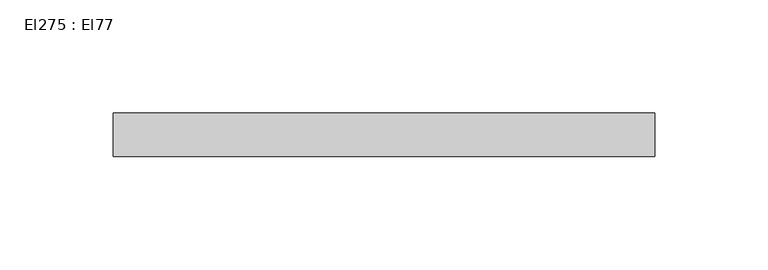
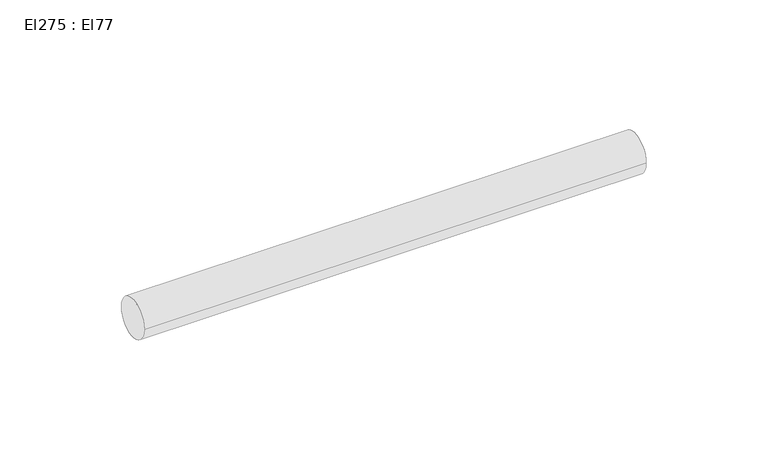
"""IFC4 building model written with IfcOpenShell, lengths in millimetres: cable carrier segment geometry, El275 : El77."""

from ifc_helpers import new_model, si_unit, point, frame, frame_2d, origin, place, context, project, spatial, circle_curve, trimmed, segment, composite_curve, outline, extrude, source, transform, mapped, element, save


def el275_el77_9066aecb(model_context):
    return source(origin(), model_context, "Body", "SweptSolid", [
        extrude(outline(composite_curve([segment(trimmed(circle_curve(frame_2d((6766.0121745, 2700.0)), 9.5), [point((6756.5121745, 2700.0))], [point((6775.5121745, 2700.0))], False, "CARTESIAN"), True, "CONTINUOUS"), segment(trimmed(circle_curve(frame_2d((6766.0121745, 2700.0)), 9.5), [point((6775.5121745, 2700.0))], [point((6756.5121745, 2700.0))], False, "CARTESIAN"), True, "CONTINUOUS")], self_intersect=False)), frame((18506.7266511, 0.0, 0.0), z_axis=(1.0, 0.0, 0.0), x_axis=(0.0, 1.0, 0.0)), (0.0, 0.0, 1.0), 238.496),
    ])


if __name__ == "__main__":
    model = new_model("IFC4")
    model_context = context("Model", 3, world=origin())
    ifc_project = project(units=[si_unit("LENGTHUNIT", "METRE", prefix="MILLI")], contexts=[model_context])
    site = spatial("IfcSite", under=ifc_project)
    building = spatial("IfcBuilding", under=site)
    placement = place(None, origin())
    el275_el77_shape = el275_el77_9066aecb(model_context)
    element("IfcCableCarrierSegment", 1, ObjectType="El275 : El77", at=placement, inside=building, context=model_context, shape_type="MappedRepresentation", body=[
        mapped(el275_el77_shape, transform((0.0, 0.0, 0.0), x_axis=(1.0, 0.0, 0.0), y_axis=(0.0, 1.0, 0.0), z_axis=(0.0, 0.0, 1.0))),
    ])
    save(model, "model.ifc")
